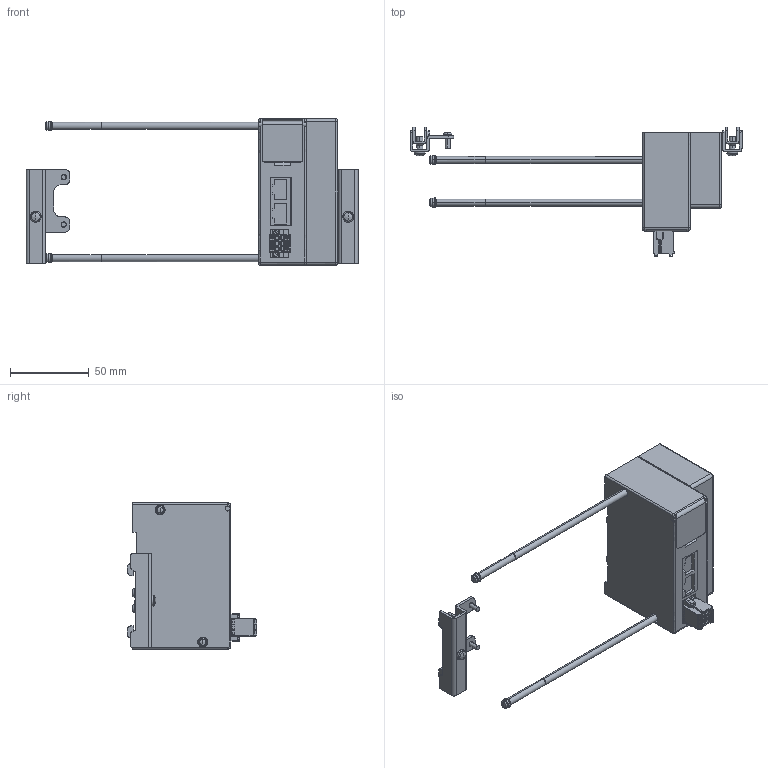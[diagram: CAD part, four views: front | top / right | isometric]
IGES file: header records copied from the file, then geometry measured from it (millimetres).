
Start section: ------------------------------------------------------------------------
Bounding box: 211 x 82.1 x 93 mm (x, y, z)
Volume: 267931 mm3; surface area: 48894.2 mm2
Topology: 3 solids, 3 shells, 979 faces, 2557 edges, 1637 vertices
Faces by surface type: bspline 979
